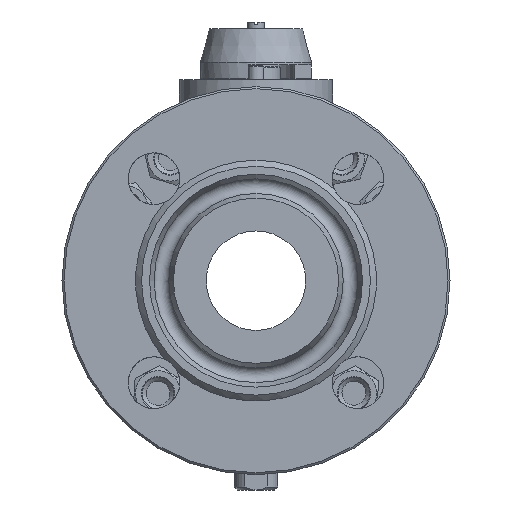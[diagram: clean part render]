
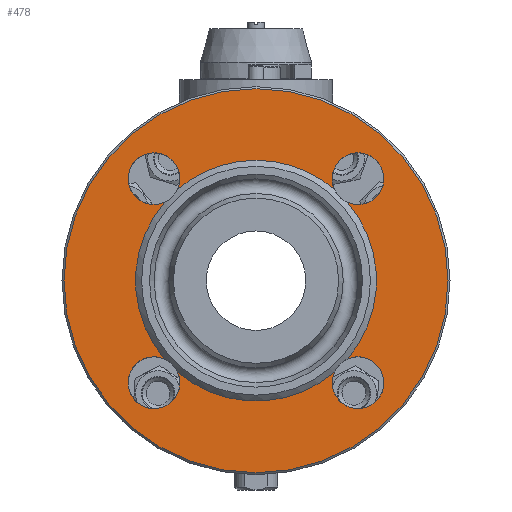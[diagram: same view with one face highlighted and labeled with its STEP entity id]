
A CAD part, left-side view. The second image highlights one B-rep face of the part: STEP entity #478.
In plain terms, the highlighted planar face has unit normal (-1, 0, 0).
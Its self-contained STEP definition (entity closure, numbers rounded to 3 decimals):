
#478=ADVANCED_FACE('',(#5947,#5949),#5951,.T.);
#5947=FACE_BOUND('',#5948,.T.);
#5948=EDGE_LOOP('',(#10309,#10310,#10311,#10312,#10313,#10314,#10315,#10316,#10317,
#10318,#10319,#10320,#10321));
#5949=FACE_OUTER_BOUND('',#5950,.T.);
#5950=EDGE_LOOP('',(#10322));
#5951=PLANE('',#5952);
#5952=AXIS2_PLACEMENT_3D('',#5953,#5954,#5955);
#5953=CARTESIAN_POINT('',(-172.,0.,0.));
#5954=DIRECTION('',(-1.,0.,0.));
#5955=DIRECTION('',(0.,0.,1.));
#10309=ORIENTED_EDGE('',*,*,#13646,.T.);
#10310=ORIENTED_EDGE('',*,*,#13648,.T.);
#10311=ORIENTED_EDGE('',*,*,#13872,.T.);
#10312=ORIENTED_EDGE('',*,*,#13659,.T.);
#10313=ORIENTED_EDGE('',*,*,#13661,.T.);
#10314=ORIENTED_EDGE('',*,*,#13873,.T.);
#10315=ORIENTED_EDGE('',*,*,#13654,.T.);
#10316=ORIENTED_EDGE('',*,*,#13656,.T.);
#10317=ORIENTED_EDGE('',*,*,#13874,.T.);
#10318=ORIENTED_EDGE('',*,*,#13875,.T.);
#10319=ORIENTED_EDGE('',*,*,#13650,.T.);
#10320=ORIENTED_EDGE('',*,*,#13652,.T.);
#10321=ORIENTED_EDGE('',*,*,#13876,.T.);
#10322=ORIENTED_EDGE('',*,*,#13877,.F.);
#13646=EDGE_CURVE('',#15631,#15632,#15633,.F.);
#13648=EDGE_CURVE('',#15632,#15634,#15636,.F.);
#13650=EDGE_CURVE('',#15638,#15639,#15640,.F.);
#13652=EDGE_CURVE('',#15639,#15641,#15643,.F.);
#13654=EDGE_CURVE('',#15645,#15646,#15647,.F.);
#13656=EDGE_CURVE('',#15646,#15648,#15650,.F.);
#13659=EDGE_CURVE('',#15654,#15652,#15655,.F.);
#13661=EDGE_CURVE('',#15652,#15656,#15658,.F.);
#13872=EDGE_CURVE('',#15634,#15654,#15978,.T.);
#13873=EDGE_CURVE('',#15656,#15645,#15979,.T.);
#13874=EDGE_CURVE('',#15648,#15980,#15981,.T.);
#13875=EDGE_CURVE('',#15980,#15638,#15982,.T.);
#13876=EDGE_CURVE('',#15641,#15631,#15983,.T.);
#13877=EDGE_CURVE('',#15984,#15984,#15985,.T.);
#15631=VERTEX_POINT('',#28884);
#15632=VERTEX_POINT('',#28885);
#15633=CIRCLE('',#28886,13.);
#15634=VERTEX_POINT('',#28890);
#15636=CIRCLE('',#28942,13.);
#15638=VERTEX_POINT('',#28949);
#15639=VERTEX_POINT('',#28950);
#15640=CIRCLE('',#28951,13.);
#15641=VERTEX_POINT('',#28955);
#15643=CIRCLE('',#29007,13.);
#15645=VERTEX_POINT('',#29014);
#15646=VERTEX_POINT('',#29015);
#15647=CIRCLE('',#29016,13.);
#15648=VERTEX_POINT('',#29020);
#15650=CIRCLE('',#29072,13.);
#15652=VERTEX_POINT('',#29079);
#15654=VERTEX_POINT('',#29083);
#15655=CIRCLE('',#29084,13.);
#15656=VERTEX_POINT('',#29088);
#15658=CIRCLE('',#29140,13.);
#15978=CIRCLE('',#32866,60.5);
#15979=CIRCLE('',#32870,60.5);
#15980=VERTEX_POINT('',#32874);
#15981=CIRCLE('',#32875,60.5);
#15982=CIRCLE('',#32879,60.5);
#15983=CIRCLE('',#32883,60.5);
#15984=VERTEX_POINT('',#32887);
#15985=CIRCLE('',#32888,96.5);
#28884=CARTESIAN_POINT('',(-172.,-45.885,-39.431));
#28885=CARTESIAN_POINT('',(-172.,-51.265,-64.265));
#28886=AXIS2_PLACEMENT_3D('',#28887,#28888,#28889);
#28887=CARTESIAN_POINT('',(-172.,-51.265,-51.265));
#28888=DIRECTION('',(-1.,0.,0.));
#28889=DIRECTION('',(0.,0.,-1.));
#28890=CARTESIAN_POINT('',(-172.,-39.431,-45.885));
#28942=AXIS2_PLACEMENT_3D('',#28943,#28944,#28945);
#28943=CARTESIAN_POINT('',(-172.,-51.265,-51.265));
#28944=DIRECTION('',(-1.,0.,0.));
#28945=DIRECTION('',(0.,0.91,0.414));
#28949=CARTESIAN_POINT('',(-172.,-39.431,45.885));
#28950=CARTESIAN_POINT('',(-172.,-64.265,51.265));
#28951=AXIS2_PLACEMENT_3D('',#28952,#28953,#28954);
#28952=CARTESIAN_POINT('',(-172.,-51.265,51.265));
#28953=DIRECTION('',(-1.,0.,0.));
#28954=DIRECTION('',(0.,-1.,0.));
#28955=CARTESIAN_POINT('',(-172.,-45.885,39.431));
#29007=AXIS2_PLACEMENT_3D('',#29008,#29009,#29010);
#29008=CARTESIAN_POINT('',(-172.,-51.265,51.265));
#29009=DIRECTION('',(-1.,0.,0.));
#29010=DIRECTION('',(0.,0.414,-0.91));
#29014=CARTESIAN_POINT('',(-172.,45.885,39.431));
#29015=CARTESIAN_POINT('',(-172.,51.265,64.265));
#29016=AXIS2_PLACEMENT_3D('',#29017,#29018,#29019);
#29017=CARTESIAN_POINT('',(-172.,51.265,51.265));
#29018=DIRECTION('',(-1.,0.,0.));
#29019=DIRECTION('',(0.,0.,1.));
#29020=CARTESIAN_POINT('',(-172.,39.431,45.885));
#29072=AXIS2_PLACEMENT_3D('',#29073,#29074,#29075);
#29073=CARTESIAN_POINT('',(-172.,51.265,51.265));
#29074=DIRECTION('',(-1.,0.,0.));
#29075=DIRECTION('',(0.,-0.91,-0.414));
#29079=CARTESIAN_POINT('',(-172.,64.265,-51.265));
#29083=CARTESIAN_POINT('',(-172.,39.431,-45.885));
#29084=AXIS2_PLACEMENT_3D('',#29085,#29086,#29087);
#29085=CARTESIAN_POINT('',(-172.,51.265,-51.265));
#29086=DIRECTION('',(-1.,0.,0.));
#29087=DIRECTION('',(0.,1.,0.));
#29088=CARTESIAN_POINT('',(-172.,45.885,-39.431));
#29140=AXIS2_PLACEMENT_3D('',#29141,#29142,#29143);
#29141=CARTESIAN_POINT('',(-172.,51.265,-51.265));
#29142=DIRECTION('',(-1.,0.,0.));
#29143=DIRECTION('',(0.,-0.414,0.91));
#32866=AXIS2_PLACEMENT_3D('',#32867,#32868,#32869);
#32867=CARTESIAN_POINT('',(-172.,0.,0.));
#32868=DIRECTION('',(1.,0.,0.));
#32869=DIRECTION('',(0.,-0.652,-0.758));
#32870=AXIS2_PLACEMENT_3D('',#32871,#32872,#32873);
#32871=CARTESIAN_POINT('',(-172.,0.,0.));
#32872=DIRECTION('',(1.,0.,0.));
#32873=DIRECTION('',(0.,0.758,-0.652));
#32874=CARTESIAN_POINT('',(-172.,0.,60.5));
#32875=AXIS2_PLACEMENT_3D('',#32876,#32877,#32878);
#32876=CARTESIAN_POINT('',(-172.,0.,0.));
#32877=DIRECTION('',(1.,0.,0.));
#32878=DIRECTION('',(0.,0.652,0.758));
#32879=AXIS2_PLACEMENT_3D('',#32880,#32881,#32882);
#32880=CARTESIAN_POINT('',(-172.,0.,0.));
#32881=DIRECTION('',(1.,0.,0.));
#32882=DIRECTION('',(0.,0.,1.));
#32883=AXIS2_PLACEMENT_3D('',#32884,#32885,#32886);
#32884=CARTESIAN_POINT('',(-172.,0.,0.));
#32885=DIRECTION('',(1.,0.,0.));
#32886=DIRECTION('',(0.,-0.758,0.652));
#32887=CARTESIAN_POINT('',(-172.,0.,96.5));
#32888=AXIS2_PLACEMENT_3D('',#32889,#32890,#32891);
#32889=CARTESIAN_POINT('',(-172.,0.,0.));
#32890=DIRECTION('',(1.,0.,0.));
#32891=DIRECTION('',(0.,0.,1.));
